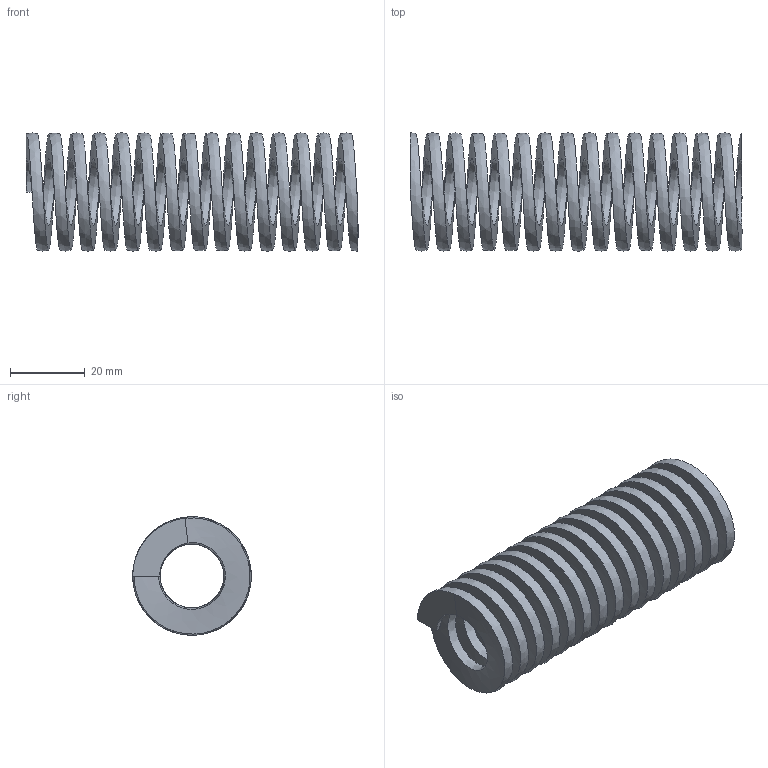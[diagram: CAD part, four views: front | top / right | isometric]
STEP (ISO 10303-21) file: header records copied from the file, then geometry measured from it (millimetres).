
FILE_DESCRIPTION (( 'STEP AP203' ), '1' );
FILE_NAME ('MS125L3.5.step', '2020-08-24T12:57:09', ( 'Microsoft Corporation' ), ( 'MS' ), 'SwSTEP 2.0', 'SolidWorks 2018', '' );
FILE_SCHEMA (( 'CONFIG_CONTROL_DESIGN' ));
Length unit declared in the file: inch
Products named in the file (1): MS125L3.5
Bounding box: 88.9 x 31.75 x 31.74 mm (x, y, z)
Volume: 23034.3 mm3; surface area: 22194.2 mm2
Topology: 1 solids, 1 shells, 8 faces, 18 edges, 12 vertices
Faces by surface type: bspline 4, plane 4
Entity records: 4694 total; most frequent: CARTESIAN_POINT 4462, ORIENTED_EDGE 36, DIRECTION 22, EDGE_CURVE 18, VERTEX_POINT 12, B_SPLINE_CURVE_WITH_KNOTS 10, AXIS2_PLACEMENT_3D 9, ADVANCED_FACE 8
